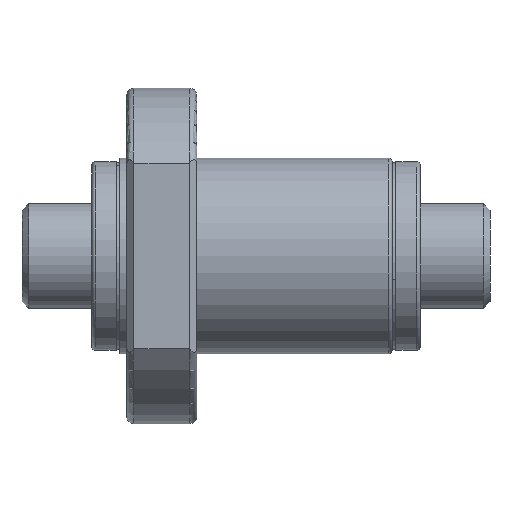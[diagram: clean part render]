
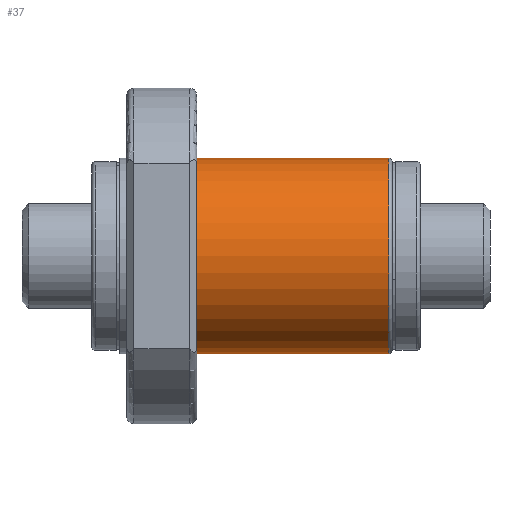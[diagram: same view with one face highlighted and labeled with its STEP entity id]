
A CAD part, front view. The second image highlights one B-rep face of the part: STEP entity #37.
In plain terms, the highlighted cylindrical face has radius 14 mm (diameter 28 mm), a partial arc.
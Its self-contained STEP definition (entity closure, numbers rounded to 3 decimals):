
#37 = ADVANCED_FACE ( 'NONE', ( #1434 ), #6295, .T. ) ;
#41 = CARTESIAN_POINT ( 'NONE',  ( 0., 0., -14. ) ) ;
#256 = AXIS2_PLACEMENT_3D ( 'NONE', #6787, #4149, #1559 ) ;
#273 = CARTESIAN_POINT ( 'NONE',  ( 42.5, 0., 14. ) ) ;
#772 = CIRCLE ( 'NONE', #256, 14. ) ;
#868 = DIRECTION ( 'NONE',  ( 0., 0., 1. ) ) ;
#939 = AXIS2_PLACEMENT_3D ( 'NONE', #6060, #4037, #868 ) ;
#1015 = EDGE_CURVE ( 'NONE', #4870, #3650, #772, .T. ) ;
#1147 = LINE ( 'NONE', #4205, #6002 ) ;
#1190 = EDGE_CURVE ( 'NONE', #4870, #2511, #4942, .T. ) ;
#1423 = VERTEX_POINT ( 'NONE', #3198 ) ;
#1434 = FACE_OUTER_BOUND ( 'NONE', #3599, .T. ) ;
#1559 = DIRECTION ( 'NONE',  ( 0., 0., -1. ) ) ;
#1645 = CARTESIAN_POINT ( 'NONE',  ( 15., 0., -14. ) ) ;
#1914 = VECTOR ( 'NONE', #4304, 1000. ) ;
#1974 = CIRCLE ( 'NONE', #3586, 14. ) ;
#2005 = DIRECTION ( 'NONE',  ( -1., 0., 0. ) ) ;
#2028 = DIRECTION ( 'NONE',  ( 0., 0., 1. ) ) ;
#2428 = EDGE_CURVE ( 'NONE', #3650, #1423, #1147, .T. ) ;
#2507 = ORIENTED_EDGE ( 'NONE', *, *, #1015, .T. ) ;
#2511 = VERTEX_POINT ( 'NONE', #1645 ) ;
#2840 = EDGE_CURVE ( 'NONE', #2511, #1423, #1974, .T. ) ;
#3118 = CARTESIAN_POINT ( 'NONE',  ( 42.5, 0., -14. ) ) ;
#3198 = CARTESIAN_POINT ( 'NONE',  ( 15., 0., 14. ) ) ;
#3579 = CARTESIAN_POINT ( 'NONE',  ( 15., 0., 0. ) ) ;
#3586 = AXIS2_PLACEMENT_3D ( 'NONE', #3579, #2005, #2028 ) ;
#3599 = EDGE_LOOP ( 'NONE', ( #4228, #2507, #4154, #4532 ) ) ;
#3650 = VERTEX_POINT ( 'NONE', #273 ) ;
#4037 = DIRECTION ( 'NONE',  ( -1., 0., 0. ) ) ;
#4149 = DIRECTION ( 'NONE',  ( -1., 0., 0. ) ) ;
#4154 = ORIENTED_EDGE ( 'NONE', *, *, #2428, .T. ) ;
#4205 = CARTESIAN_POINT ( 'NONE',  ( 0., 0., 14. ) ) ;
#4228 = ORIENTED_EDGE ( 'NONE', *, *, #1190, .F. ) ;
#4304 = DIRECTION ( 'NONE',  ( -1., 0., 0. ) ) ;
#4532 = ORIENTED_EDGE ( 'NONE', *, *, #2840, .F. ) ;
#4870 = VERTEX_POINT ( 'NONE', #3118 ) ;
#4942 = LINE ( 'NONE', #41, #1914 ) ;
#6002 = VECTOR ( 'NONE', #6327, 1000. ) ;
#6060 = CARTESIAN_POINT ( 'NONE',  ( 0., 0., 0. ) ) ;
#6295 = CYLINDRICAL_SURFACE ( 'NONE', #939, 14. ) ;
#6327 = DIRECTION ( 'NONE',  ( -1., 0., 0. ) ) ;
#6787 = CARTESIAN_POINT ( 'NONE',  ( 42.5, 0., 0. ) ) ;
